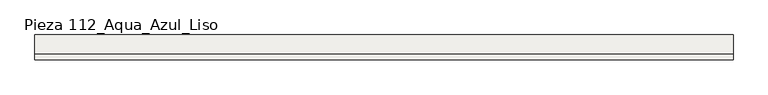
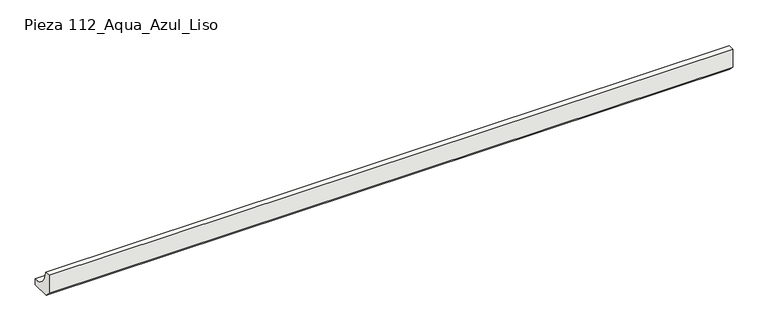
"""IFC4 building model written with IfcOpenShell, lengths in millimetres: slab geometry, ROSA GRES_112 : Pieza 112_Aqua_Azul_Liso."""

from ifc_helpers import new_model, si_unit, point, frame, frame_2d, origin, place, context, project, spatial, polyline, circle_curve, trimmed, segment, composite_curve, outline, extrude, source, transform, mapped, element, save


def pieza_112_aqua_azul_liso_c7a8b8d1(model_context):
    return source(origin(), model_context, "Body", "SweptSolid", [
        extrude(outline(composite_curve([segment(polyline([(0.0, 8.7114978), (0.0, 40.0), (9.9734114, 40.0)]), True, "CONTINUOUS"), segment(trimmed(circle_curve(frame_2d((39.9955547, 39.9955547)), 30.0221435), [point((9.9734114, 40.0))], [point((40.0, 9.9734114))], True, "CARTESIAN"), True, "CONTINUOUS"), segment(polyline([(40.0, 9.9734114), (40.0, 0.0), (8.7114978, 0.0), (0.0, 8.7114978)]), True, "CONTINUOUS")], self_intersect=False)), frame((0.0, 0.0, 0.0), z_axis=(1.0, 0.0, 0.0), x_axis=(0.0, 1.0, 0.0)), (0.0, 0.0, 1.0), 1123.8967207),
    ])


if __name__ == "__main__":
    model = new_model("IFC4")
    model_context = context("Model", 3, world=origin())
    ifc_project = project(units=[si_unit("LENGTHUNIT", "METRE", prefix="MILLI")], contexts=[model_context])
    site = spatial("IfcSite", under=ifc_project)
    building = spatial("IfcBuilding", under=site)
    placement = place(None, origin())
    pieza_112_aqua_azul_liso_shape = pieza_112_aqua_azul_liso_c7a8b8d1(model_context)
    element("IfcSlab", 1, ObjectType="ROSA GRES_112 : Pieza 112_Aqua_Azul_Liso", at=placement, inside=building, context=model_context, shape_type="MappedRepresentation", body=[
        mapped(pieza_112_aqua_azul_liso_shape, transform((0.0, 0.0, 0.0), x_axis=(1.0, 0.0, 0.0), y_axis=(0.0, 1.0, 0.0), z_axis=(0.0, 0.0, 1.0))),
    ])
    save(model, "model.ifc")
